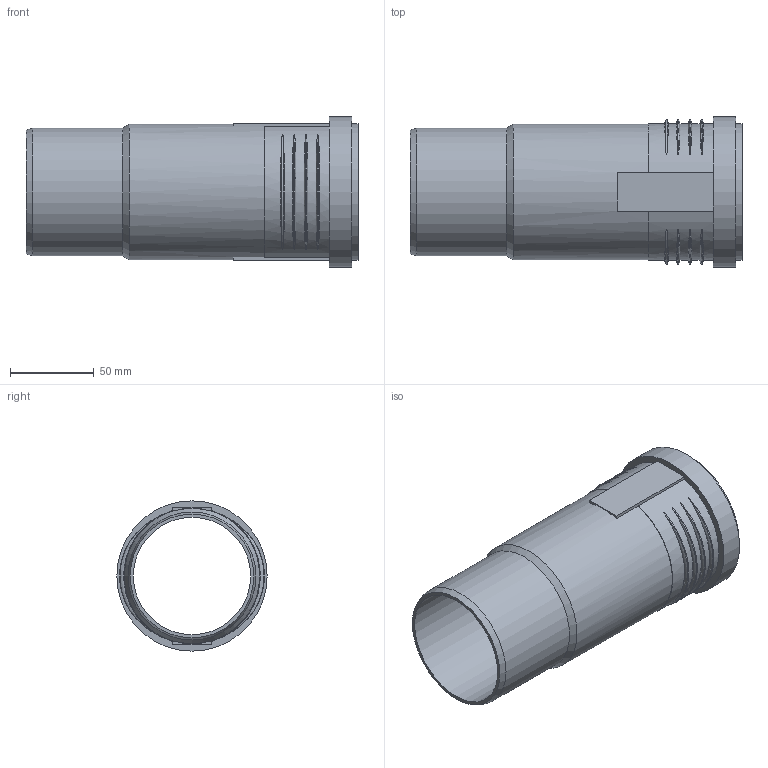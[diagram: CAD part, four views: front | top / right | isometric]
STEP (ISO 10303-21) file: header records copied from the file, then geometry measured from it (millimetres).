
FILE_DESCRIPTION(/* description */ (''),/* implementation_level */ '2;1');
FILE_NAME(/* name */ 'Z:\Geberit\Export\NewStep\390318.stp',/* time_stamp */ '2014-04-02T08:11:30+02:00',/* author */ ('ML'),/* organization */ (''),/* preprocessor_version */ 'ST-DEVELOPER v15.2',/* originating_system */ 'Autodesk Inventor 2014',/* authorisation */ '');
FILE_SCHEMA (('AUTOMOTIVE_DESIGN { 1 0 10303 214 3 1 1 }'));
Length unit declared in the file: millimetre
Products named in the file (1): 390318
Bounding box: 198 x 89.6 x 89.6 mm (x, y, z)
Volume: 132495.8 mm3; surface area: 104150.5 mm2
Topology: 1 solids, 1 shells, 53 faces, 128 edges, 89 vertices
Faces by surface type: torus 24, plane 16, cylinder 10, cone 3
Full cylindrical faces by diameter (mm): 70 x1, 76.2 x3, 80.8 x1, 81.4 x1, 85 x1, 89.6 x1
Entity records: 2240 total; most frequent: CARTESIAN_POINT 1010, ORIENTED_EDGE 232, DIRECTION 216, EDGE_CURVE 116, AXIS2_PLACEMENT_3D 94, VERTEX_POINT 88, EDGE_LOOP 78, STYLED_ITEM 54
